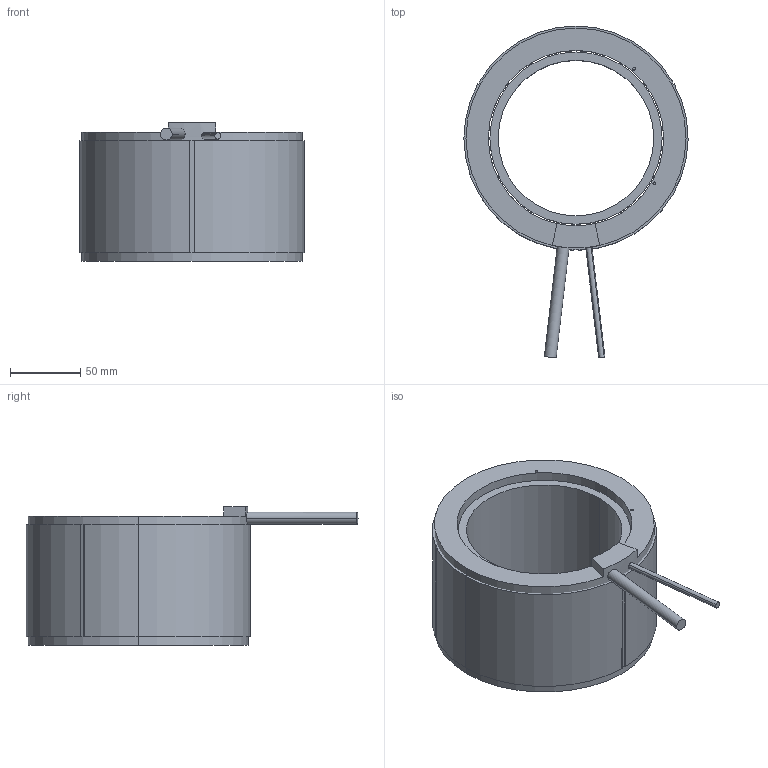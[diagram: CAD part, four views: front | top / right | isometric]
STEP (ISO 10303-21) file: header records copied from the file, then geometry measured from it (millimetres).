
FILE_DESCRIPTION (( 'STEP AP203' ), '1' );
FILE_NAME ('TM160-92 KIT 3D.STEP', '2022-10-08T16:08:08', ( '' ), ( '' ), 'SwSTEP 2.0', 'SolidWorks 2021', '' );
FILE_SCHEMA (( 'CONFIG_CONTROL_DESIGN' ));
Length unit declared in the file: millimetre
Products named in the file (1): TM160-92 KIT 3D
Bounding box: 160 x 236.92 x 99 mm (x, y, z)
Volume: 1025335.4 mm3; surface area: 248679.3 mm2
Topology: 3 solids, 3 shells, 163 faces, 462 edges, 308 vertices
Faces by surface type: plane 85, cylinder 78
Entity records: 5525 total; most frequent: CARTESIAN_POINT 1052, DIRECTION 936, ORIENTED_EDGE 924, EDGE_CURVE 462, AXIS2_PLACEMENT_3D 318, VERTEX_POINT 308, LINE 300, VECTOR 300
